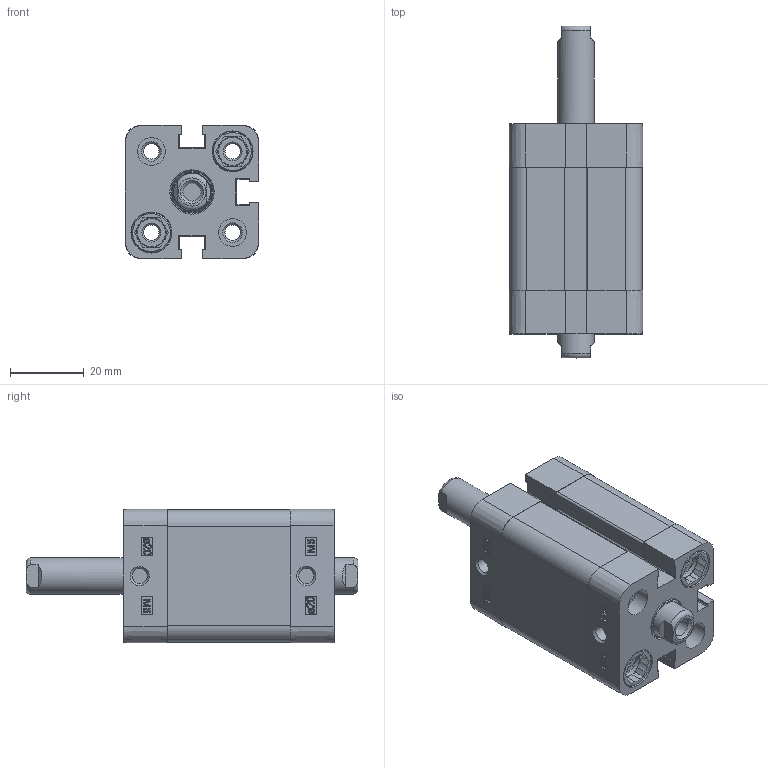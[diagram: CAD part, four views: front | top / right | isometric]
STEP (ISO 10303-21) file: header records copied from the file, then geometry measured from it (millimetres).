
FILE_DESCRIPTION(/* description */ ('Unknown'),/* implementation_level */ '2;1');
FILE_NAME(/* name */ 'ZBN 20_20',/* time_stamp */ '2025-01-27T13:34:06+01:00',/* author */ ('Unknown'),/* organization */ ('HAFNER Pneumatika Kft'),/* preprocessor_version */ 'ST-DEVELOPER v16.7',/* originating_system */ 'Solid Edge',/* authorisation */ 'Unknown');
FILE_SCHEMA (('AUTOMOTIVE_DESIGN {1 0 10303 214 3 1 1}'));
Length unit declared in the file: millimetre
Products named in the file (5): ZBN 20_20; Kit_1; Kit_2; Profilrohr; Kolbenstange
Assembly tree (5 placements, depth 2):
  ZBN 20_20
    Kit_1
    Kit_2
    Profilrohr
    Kolbenstange  x2
Bounding box: 36.3 x 90 x 36.3 mm (x, y, z)
Volume: 55560.5 mm3; surface area: 31489.7 mm2
Topology: 5 solids, 9 shells, 607 faces, 1619 edges, 1070 vertices
Faces by surface type: plane 292, cylinder 157, bspline 86, cone 56, torus 16
Full cylindrical faces by diameter (mm): 4.134 x10, 4.917 x4, 7.5 x4, 7.55 x4, 8 x8, 10 x2, 10.48 x2, 10.9 x4, 11.1 x4, 11.4 x2, 12 x2, 13.84 x2, 14 x2, 20 x3
Entity records: 21902 total; most frequent: CARTESIAN_POINT 4232, ORIENTED_EDGE 2860, DIRECTION 2646, EDGE_CURVE 1430, VERTEX_POINT 999, AXIS2_PLACEMENT_3D 903, LINE 840, VECTOR 840
